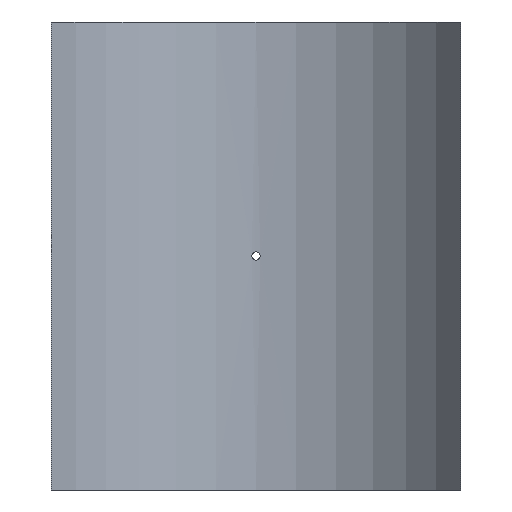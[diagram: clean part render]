
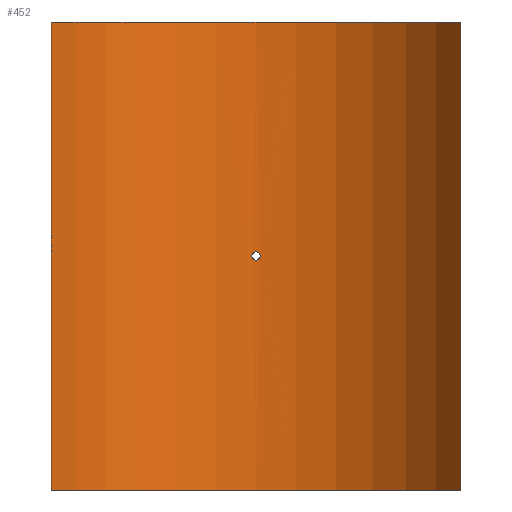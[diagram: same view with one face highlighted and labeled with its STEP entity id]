
A CAD part, front view. The second image highlights one B-rep face of the part: STEP entity #452.
In plain terms, the highlighted cylindrical face has radius 280 mm (diameter 560 mm), a partial arc.
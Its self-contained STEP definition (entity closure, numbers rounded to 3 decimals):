
#19=B_SPLINE_CURVE_WITH_KNOTS('',3,(#788,#789,#790,#791,#792,#793,#794,
#795,#796,#797,#798,#799,#800,#801,#802,#803,#804,#805,#806,#807,#808,#809,
#810,#811,#812,#813,#814,#815,#816,#817,#818,#819,#820,#821),
 .UNSPECIFIED.,.T.,.F.,(4,2,2,2,2,2,2,2,2,2,2,2,2,2,2,2,4),(0.,0.181,
0.362,0.542,0.723,0.904,
1.085,1.266,1.447,1.627,1.808,
1.989,2.17,2.351,2.531,2.712,
2.893),.UNSPECIFIED.);
#43=LINE('',#1081,#62);
#44=LINE('',#1084,#63);
#62=VECTOR('',#661,10.);
#63=VECTOR('',#664,10.);
#76=CYLINDRICAL_SURFACE('',#530,280.);
#88=FACE_BOUND('',#167,.T.);
#127=FACE_OUTER_BOUND('',#166,.T.);
#166=EDGE_LOOP('',(#405,#406,#407,#408));
#167=EDGE_LOOP('',(#409));
#201=CIRCLE('',#529,280.);
#202=CIRCLE('',#531,280.);
#219=VERTEX_POINT('',#786);
#242=VERTEX_POINT('',#1074);
#243=VERTEX_POINT('',#1076);
#244=VERTEX_POINT('',#1080);
#245=VERTEX_POINT('',#1082);
#267=EDGE_CURVE('',#219,#219,#19,.T.);
#299=EDGE_CURVE('',#242,#243,#201,.T.);
#301=EDGE_CURVE('',#244,#242,#43,.T.);
#302=EDGE_CURVE('',#245,#244,#202,.T.);
#303=EDGE_CURVE('',#245,#243,#44,.T.);
#405=ORIENTED_EDGE('',*,*,#301,.F.);
#406=ORIENTED_EDGE('',*,*,#302,.F.);
#407=ORIENTED_EDGE('',*,*,#303,.T.);
#408=ORIENTED_EDGE('',*,*,#299,.F.);
#409=ORIENTED_EDGE('',*,*,#267,.T.);
#452=ADVANCED_FACE('',(#127,#88),#76,.F.);
#529=AXIS2_PLACEMENT_3D('',#1077,#656,#657);
#530=AXIS2_PLACEMENT_3D('',#1079,#659,#660);
#531=AXIS2_PLACEMENT_3D('',#1083,#662,#663);
#656=DIRECTION('center_axis',(0.,0.,1.));
#657=DIRECTION('ref_axis',(0.843,0.538,0.));
#659=DIRECTION('center_axis',(0.,0.,1.));
#660=DIRECTION('ref_axis',(0.843,0.538,0.));
#661=DIRECTION('',(0.,0.,-1.));
#662=DIRECTION('center_axis',(0.,0.,-1.));
#663=DIRECTION('ref_axis',(0.843,0.538,0.));
#664=DIRECTION('',(0.,0.,-1.));
#786=CARTESIAN_POINT('',(4.8,279.959,0.));
#788=CARTESIAN_POINT('Ctrl Pts',(4.8,279.959,0.));
#789=CARTESIAN_POINT('Ctrl Pts',(4.8,279.959,-0.603));
#790=CARTESIAN_POINT('Ctrl Pts',(4.68,279.961,-1.246));
#791=CARTESIAN_POINT('Ctrl Pts',(4.19,279.969,-2.428));
#792=CARTESIAN_POINT('Ctrl Pts',(3.82,279.974,-2.968));
#793=CARTESIAN_POINT('Ctrl Pts',(2.968,279.985,-3.82));
#794=CARTESIAN_POINT('Ctrl Pts',(2.428,279.99,-4.19));
#795=CARTESIAN_POINT('Ctrl Pts',(1.246,279.998,-4.68));
#796=CARTESIAN_POINT('Ctrl Pts',(0.603,280.,-4.8));
#797=CARTESIAN_POINT('Ctrl Pts',(-0.603,280.,-4.8));
#798=CARTESIAN_POINT('Ctrl Pts',(-1.246,279.998,-4.68));
#799=CARTESIAN_POINT('Ctrl Pts',(-2.428,279.99,-4.19));
#800=CARTESIAN_POINT('Ctrl Pts',(-2.968,279.985,-3.82));
#801=CARTESIAN_POINT('Ctrl Pts',(-3.82,279.974,-2.968));
#802=CARTESIAN_POINT('Ctrl Pts',(-4.19,279.969,-2.428));
#803=CARTESIAN_POINT('Ctrl Pts',(-4.68,279.961,-1.246));
#804=CARTESIAN_POINT('Ctrl Pts',(-4.8,279.959,-0.603));
#805=CARTESIAN_POINT('Ctrl Pts',(-4.8,279.959,0.603));
#806=CARTESIAN_POINT('Ctrl Pts',(-4.68,279.961,1.246));
#807=CARTESIAN_POINT('Ctrl Pts',(-4.19,279.969,2.428));
#808=CARTESIAN_POINT('Ctrl Pts',(-3.82,279.974,2.968));
#809=CARTESIAN_POINT('Ctrl Pts',(-2.968,279.985,3.82));
#810=CARTESIAN_POINT('Ctrl Pts',(-2.428,279.99,4.19));
#811=CARTESIAN_POINT('Ctrl Pts',(-1.246,279.998,4.68));
#812=CARTESIAN_POINT('Ctrl Pts',(-0.603,280.,4.8));
#813=CARTESIAN_POINT('Ctrl Pts',(0.603,280.,4.8));
#814=CARTESIAN_POINT('Ctrl Pts',(1.246,279.998,4.68));
#815=CARTESIAN_POINT('Ctrl Pts',(2.428,279.99,4.19));
#816=CARTESIAN_POINT('Ctrl Pts',(2.968,279.985,3.82));
#817=CARTESIAN_POINT('Ctrl Pts',(3.82,279.974,2.968));
#818=CARTESIAN_POINT('Ctrl Pts',(4.19,279.969,2.428));
#819=CARTESIAN_POINT('Ctrl Pts',(4.68,279.961,1.246));
#820=CARTESIAN_POINT('Ctrl Pts',(4.8,279.959,0.603));
#821=CARTESIAN_POINT('Ctrl Pts',(4.8,279.959,0.));
#1074=CARTESIAN_POINT('',(236.,150.678,-270.));
#1076=CARTESIAN_POINT('',(-236.,150.678,-270.));
#1077=CARTESIAN_POINT('Origin',(0.,0.,
-270.));
#1079=CARTESIAN_POINT('Origin',(0.,0.,
0.));
#1080=CARTESIAN_POINT('',(236.,150.678,270.));
#1081=CARTESIAN_POINT('',(236.,150.678,0.));
#1082=CARTESIAN_POINT('',(-236.,150.678,270.));
#1083=CARTESIAN_POINT('Origin',(0.,0.,
270.));
#1084=CARTESIAN_POINT('',(-236.,150.678,0.));
